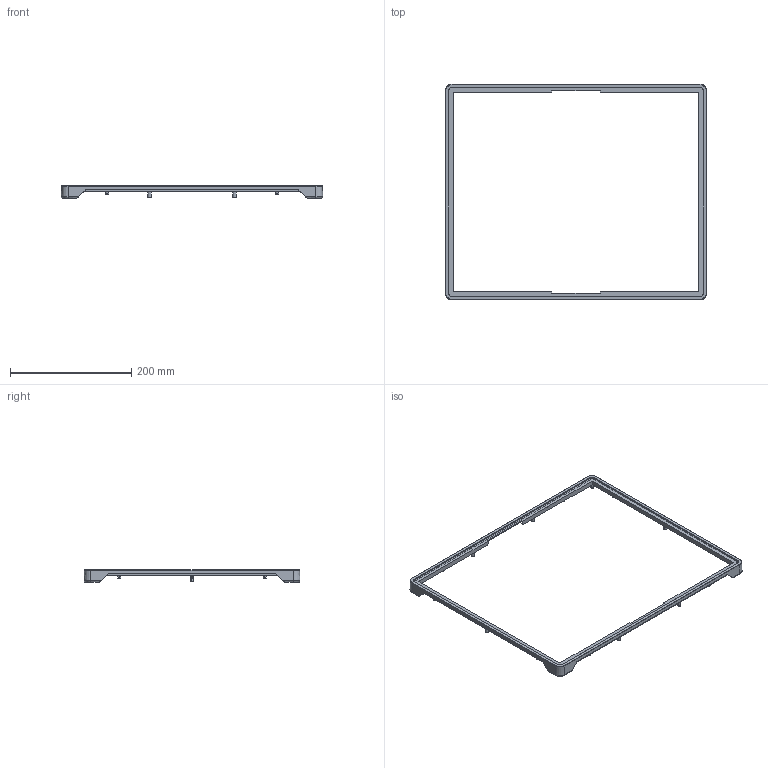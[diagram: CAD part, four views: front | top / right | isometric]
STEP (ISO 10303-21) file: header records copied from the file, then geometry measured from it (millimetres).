
FILE_DESCRIPTION(/* description */ (''),/* implementation_level */ '2;1');
FILE_NAME(/* name */ '19.stp',/* time_stamp */ '2021-07-02T17:22:28+08:00',/* author */ (''),/* organization */ (''),/* preprocessor_version */ 'ST-DEVELOPER v14',/* originating_system */ 'SIEMENS PLM Software NX 8.0',/* authorisation */ '');
FILE_SCHEMA (('AUTOMOTIVE_DESIGN { 1 0 10303 214 3 1 1 1 }'));
Length unit declared in the file: millimetre
Products named in the file (1): Admi1994CAA4lfpw
Bounding box: 431.03 x 355.77 x 20 mm (x, y, z)
Volume: 83688.7 mm3; surface area: 98690.5 mm2
Topology: 1 solids, 1 shells, 504 faces, 1381 edges, 898 vertices
Faces by surface type: plane 321, cylinder 122, cone 44, torus 11, bspline 6
Entity records: 16409 total; most frequent: CARTESIAN_POINT 3417, ORIENTED_EDGE 2762, DIRECTION 2725, EDGE_CURVE 1381, AXIS2_PLACEMENT_3D 974, VERTEX_POINT 898, LINE 777, VECTOR 777
